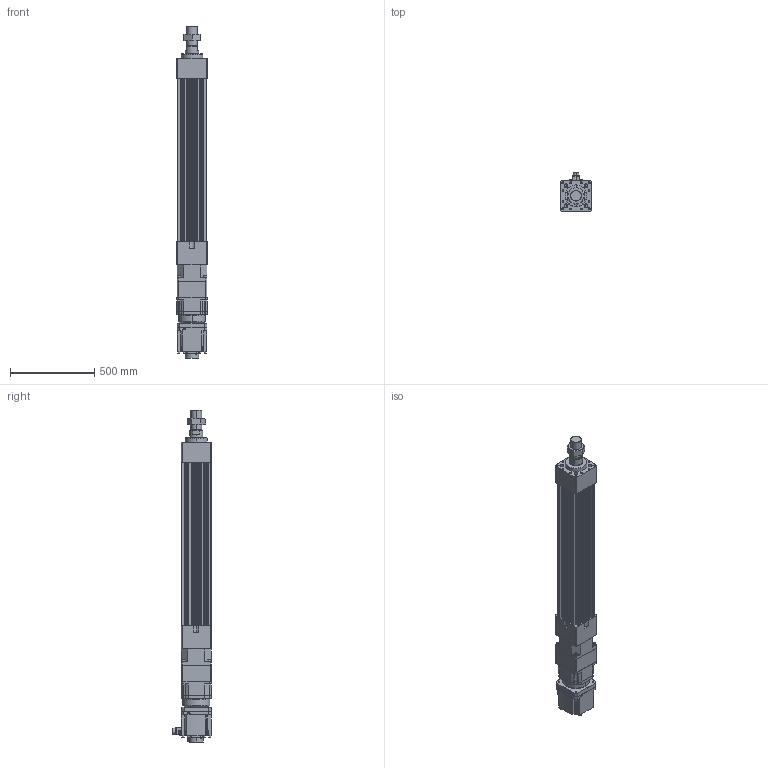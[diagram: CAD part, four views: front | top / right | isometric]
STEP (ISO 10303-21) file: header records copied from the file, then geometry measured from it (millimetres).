
FILE_DESCRIPTION (( 'STEP AP203' ), '1' );
FILE_NAME ('HES180HS-S650-W050G00-M.STEP', '2023-02-01T09:53:08', ( 'tms' ), ( '' ), 'SwSTEP 2.0', 'SolidWorks 2013', '' );
FILE_SCHEMA (( 'CONFIG_CONTROL_DESIGN' ));
Length unit declared in the file: millimetre
Products named in the file (9): HG-SR502; AB180-003[HG-SR702B]; HES180HS-S650-W050G00-M; HES180 ROD M ST650; AB1801; P1301600001; HES180-S650-G180; M64X2.0P; P0403600401
Assembly tree (8 placements, depth 3):
  HES180HS-S650-W050G00-M
    HES180-S650-G180
    HES180 ROD M ST650
    M64X2.0P
    AB180-003[HG-SR702B]
      AB1801
      P1301600001
      P0403600401
    HG-SR502
Bounding box: 180 x 230.85 x 1967 mm (x, y, z)
Volume: 29107597.4 mm3; surface area: 2788728.5 mm2
Topology: 4 solids, 23 shells, 1534 faces, 3945 edges, 2546 vertices
Faces by surface type: cylinder 693, plane 600, cone 174, bspline 63, torus 4
Entity records: 55246 total; most frequent: CARTESIAN_POINT 16431, DIRECTION 8177, ORIENTED_EDGE 7750, EDGE_CURVE 3899, AXIS2_PLACEMENT_3D 3072, VERTEX_POINT 2546, VECTOR 2033, LINE 2033
